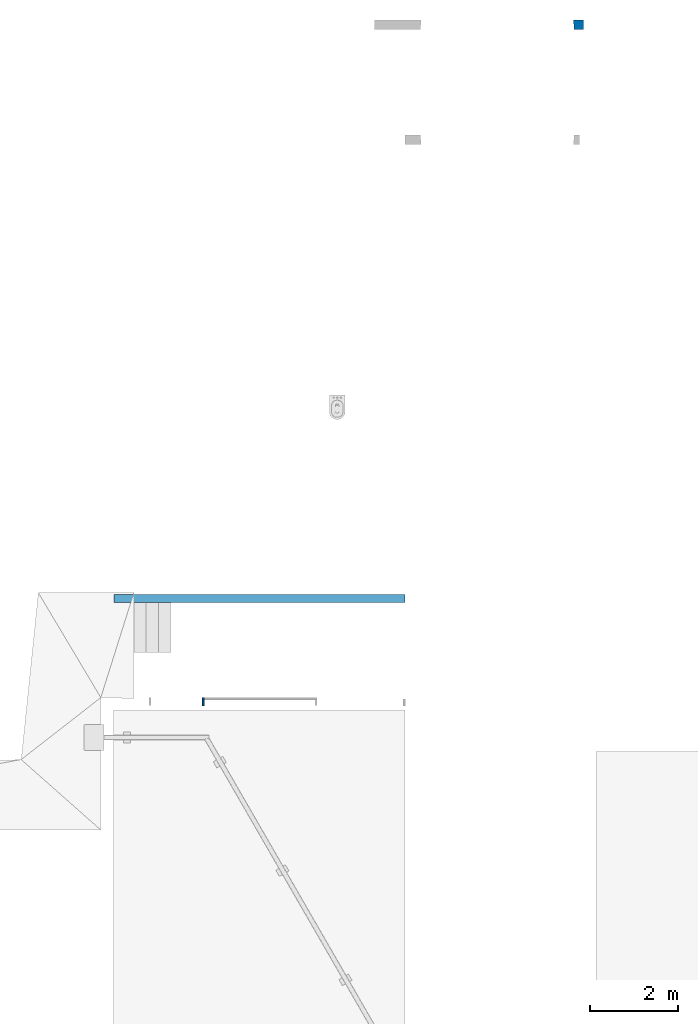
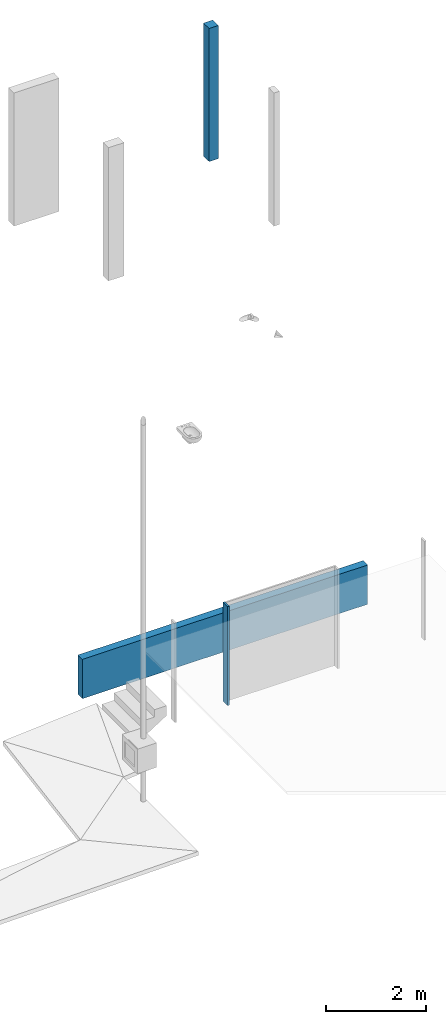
# One storey, part 2 of 6: 3 walls.
"""IFC2X3 building model written with IfcOpenShell, lengths in metres."""

from ifc_helpers import new_model, entity, si_unit, converted_unit, derived_unit, direction, frame, frame_2d, origin, place, context, subcontext, project, spatial, polyline, rectangle, outline, extrude, material, layer, layer_set, layer_usage, type_object, element, save


model = new_model("IFC2X3")

# Units and contexts
model_context = context("Model", 3, precision=1e-05, world=origin(), true_north=direction((6.12303176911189e-17, 1.0)))
body_context = subcontext(model_context, "Body", "Model", "MODEL_VIEW")
ifc_project = project(units=[si_unit("LENGTHUNIT", "METRE"), si_unit("AREAUNIT", "SQUARE_METRE"), si_unit("VOLUMEUNIT", "CUBIC_METRE"), converted_unit("PLANEANGLEUNIT", "DEGREE", entity("IfcRatioMeasure", 0.0174532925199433), si_unit("PLANEANGLEUNIT", "RADIAN"), dimensions=[0, 0, 0, 0, 0, 0, 0]), si_unit("MASSUNIT", "GRAM", prefix="KILO"), derived_unit("MASSDENSITYUNIT", [(si_unit("MASSUNIT", "GRAM", prefix="KILO"), 1), (si_unit("LENGTHUNIT", "METRE"), -3)]), derived_unit("MOMENTOFINERTIAUNIT", [(si_unit("LENGTHUNIT", "METRE"), 4)]), si_unit("TIMEUNIT", "SECOND"), si_unit("FREQUENCYUNIT", "HERTZ"), si_unit("THERMODYNAMICTEMPERATUREUNIT", "DEGREE_CELSIUS"), derived_unit("THERMALTRANSMITTANCEUNIT", [(si_unit("MASSUNIT", "GRAM", prefix="KILO"), 1), (si_unit("THERMODYNAMICTEMPERATUREUNIT", "KELVIN"), -1), (si_unit("TIMEUNIT", "SECOND"), -3)]), derived_unit("VOLUMETRICFLOWRATEUNIT", [(si_unit("LENGTHUNIT", "METRE"), 3), (si_unit("TIMEUNIT", "SECOND"), -1)]), si_unit("ELECTRICCURRENTUNIT", "AMPERE"), si_unit("ELECTRICVOLTAGEUNIT", "VOLT"), si_unit("POWERUNIT", "WATT"), si_unit("FORCEUNIT", "NEWTON", prefix="KILO"), si_unit("ILLUMINANCEUNIT", "LUX"), si_unit("LUMINOUSFLUXUNIT", "LUMEN"), si_unit("LUMINOUSINTENSITYUNIT", "CANDELA"), derived_unit("USERDEFINED", [(si_unit("MASSUNIT", "GRAM", prefix="KILO"), -1), (si_unit("LENGTHUNIT", "METRE"), -2), (si_unit("TIMEUNIT", "SECOND"), 3), (si_unit("LUMINOUSFLUXUNIT", "LUMEN"), 1)]), derived_unit("LINEARVELOCITYUNIT", [(si_unit("LENGTHUNIT", "METRE"), 1), (si_unit("TIMEUNIT", "SECOND"), -1)]), si_unit("PRESSUREUNIT", "PASCAL"), derived_unit("USERDEFINED", [(si_unit("LENGTHUNIT", "METRE"), -2), (si_unit("MASSUNIT", "GRAM", prefix="KILO"), 1), (si_unit("TIMEUNIT", "SECOND"), -2)]), derived_unit("LINEARFORCEUNIT", [(si_unit("MASSUNIT", "GRAM", prefix="KILO"), 1), (si_unit("LENGTHUNIT", "METRE"), 1), (si_unit("TIMEUNIT", "SECOND"), -2), (si_unit("LENGTHUNIT", "METRE"), -1)]), derived_unit("PLANARFORCEUNIT", [(si_unit("MASSUNIT", "GRAM", prefix="KILO"), 1), (si_unit("LENGTHUNIT", "METRE"), 1), (si_unit("TIMEUNIT", "SECOND"), -2), (si_unit("LENGTHUNIT", "METRE"), -2)])], contexts=[model_context])

# Site, building, storey
site_placement = place(None, origin())
site = spatial("IfcSite", under=ifc_project, at=site_placement, Name="Default", CompositionType="ELEMENT")
building_placement = place(site_placement, origin())
building = spatial("IfcBuilding", under=site, at=building_placement, CompositionType="ELEMENT")
storey_placement = place(building_placement, origin())
storey = spatial("IfcBuildingStorey", under=building, at=storey_placement, Name="Niveau 00", CompositionType="ELEMENT", Elevation=0.0)

# Walls
ifc_material_1 = material(Name="Mur par défaut")
ifc_layer_1 = layer(ifc_material_1, 0.18)
ifc_layer_set_1 = layer_set([ifc_layer_1], Name="Mur de base:@_Générique - Int. 180 mm")
ifc_layer_usage_1 = layer_usage(ifc_layer_set_1, "AXIS2", "NEGATIVE", 0.09)
wall_type_1 = type_object("IfcWallType", Name="Mur de base:@_Générique - Int. 180 mm", PredefinedType="STANDARD", material=ifc_layer_set_1)
wall_1_placement = place(storey_placement, frame((-18.9470106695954, 13.0736568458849, 0.7), z_axis=(0.0, 0.0, 1.0), x_axis=(-1.0, 0.0, 0.0)))
element("IfcWallStandardCase", 1, at=wall_1_placement, inside=storey, type_object=wall_type_1, material=ifc_layer_usage_1, Name="Mur de base:@_Générique - Int. 180 mm", ObjectType="Mur de base:@_Générique - Int. 180 mm", context=body_context, shape_type="SweptSolid", body=[
    extrude(outline(polyline([(6.59938131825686, -0.0900000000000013), (6.60039621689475, 0.0899999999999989), (0.0, 0.089999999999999), (0.0, -0.0900000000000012), (6.59938131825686, -0.0900000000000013)])), origin(), (0.0, 0.0, 1.0), 0.962099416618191),
])
ifc_material_2 = material(Name="Maçonnerie - Voile BA")
ifc_layer_2 = layer(ifc_material_2, 0.22)
ifc_layer_set_2 = layer_set([ifc_layer_2], Name="Mur de base:Ext. Voile BA 220")
ifc_layer_usage_2 = layer_usage(ifc_layer_set_2, "AXIS2", "NEGATIVE", 0.11)
wall_type_2 = type_object("IfcWallType", Name="Mur de base:Ext. Voile BA 220", PredefinedType="STANDARD", material=ifc_layer_set_2)
wall_2_placement = place(storey_placement, frame((-14.902742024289, 26.0816048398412, 2.31330827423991), z_axis=(0.0, 0.0, 1.0), x_axis=(-1.0, 0.0, 0.0)))
element("IfcWallStandardCase", 2, at=wall_2_placement, inside=storey, type_object=wall_type_2, material=ifc_layer_usage_2, Name="Mur de base:Ext. Voile BA 220", ObjectType="Mur de base:Ext. Voile BA 220", context=body_context, shape_type="SweptSolid", body=[
    extrude(outline(polyline([(0.219345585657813, -0.110000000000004), (0.210268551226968, 0.109999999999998), (0.0, 0.110000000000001), (0.0, -0.00999999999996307), (0.0, -0.0799999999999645), (0.0, -0.110000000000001), (0.219345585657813, -0.110000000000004)])), origin(), (0.0, 0.0, 1.0), 3.25856448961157),
])
ifc_material_3 = material(Name="Finition vertical béton")
ifc_layer_3 = layer(ifc_material_3, 0.04)
ifc_layer_set_3 = layer_set([ifc_layer_3], Name="Mur de base:Mur EXE 40- Hach")
ifc_layer_usage_3 = layer_usage(ifc_layer_set_3, "AXIS2", "NEGATIVE", 0.02)
wall_type_3 = type_object("IfcWallType", Name="Mur de base:Mur EXE 40- Hach", PredefinedType="STANDARD", material=ifc_layer_set_3)
wall_3_placement = place(storey_placement, frame((-23.5201626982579, 10.64088485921, 1.24808386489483), z_axis=(0.0, 0.0, 1.0), x_axis=(0.0, 1.0, 0.0)))
element("IfcWallStandardCase", 3, at=wall_3_placement, inside=storey, type_object=wall_type_3, material=ifc_layer_usage_3, Name="Mur de base:Mur EXE 40- Hach", ObjectType="Mur de base:Mur EXE 40- Hach", context=body_context, shape_type="SweptSolid", body=[
    extrude(rectangle(XDim=0.179999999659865, YDim=0.0399999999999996, at=frame_2d((0.0899999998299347, -1.02522157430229e-15), x_axis=(-1.0, 0.0))), origin(), (0.0, 0.0, 1.0), 2.42378889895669),
])

save(model, "model.ifc")
